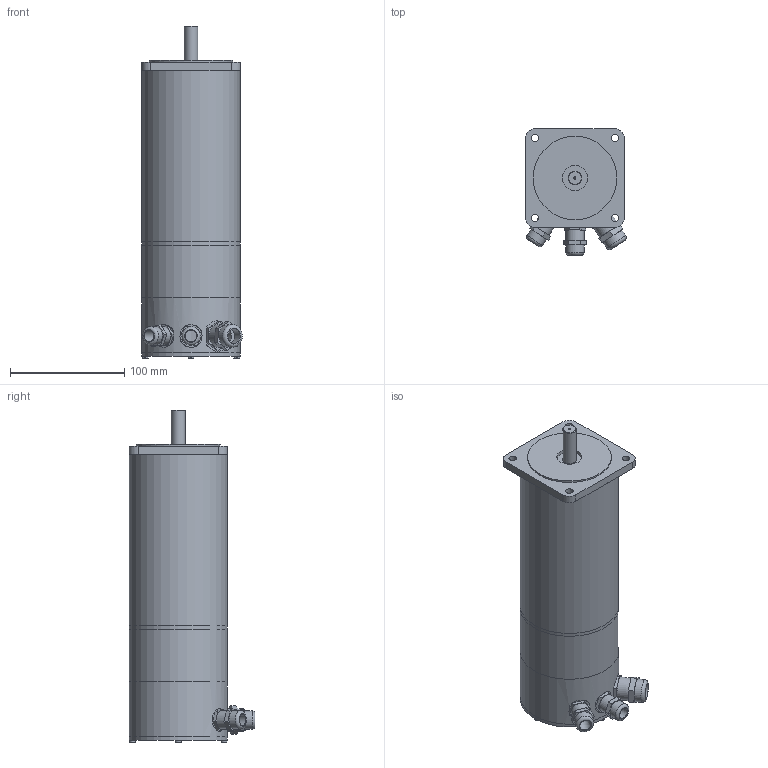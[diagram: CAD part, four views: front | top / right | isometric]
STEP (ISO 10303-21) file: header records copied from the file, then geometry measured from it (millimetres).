
FILE_DESCRIPTION((''),'2;1');
FILE_NAME('C:\Users\Reinhard\Documents\Inventor\Testschrittmotor\SM88\SM88.4-BH200-KV.stp','2012-11-12T20:45:01',('Reinhard'),(''),'Autodesk Inventor 2012','Autodesk Inventor 2012','');
FILE_SCHEMA(('CONFIG_CONTROL_DESIGN'));
Length unit declared in the file: millimetre
Products named in the file (1): SM88
Bounding box: 87.8 x 110 x 290 mm (x, y, z)
Volume: 257159 mm3; surface area: 178323.1 mm2
Topology: 2 solids, 3 shells, 166 faces, 378 edges, 248 vertices
Faces by surface type: plane 106, cylinder 55, torus 3, cone 2
Full cylindrical faces by diameter (mm): 2 x1, 5 x4, 6.6 x4, 10 x2, 12 x4, 13 x2, 15 x1, 16 x4, 18.376 x1, 20 x3, 22 x1, 73 x1, 78 x2, 82 x2, 86 x5
Entity records: 4581 total; most frequent: CARTESIAN_POINT 938, DIRECTION 750, ORIENTED_EDGE 652, EDGE_CURVE 326, AXIS2_PLACEMENT_3D 280, EDGE_LOOP 254, VERTEX_POINT 238, VECTOR 190
